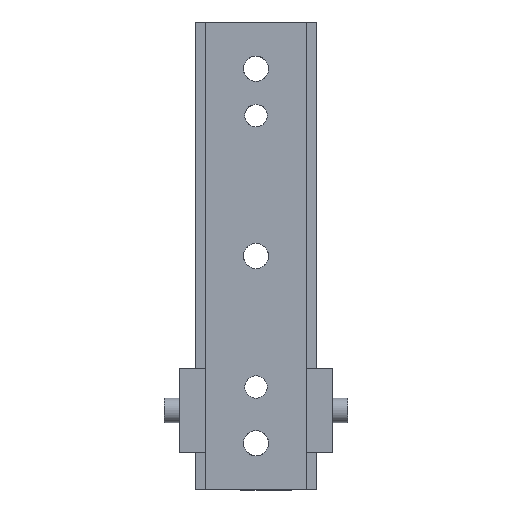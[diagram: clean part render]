
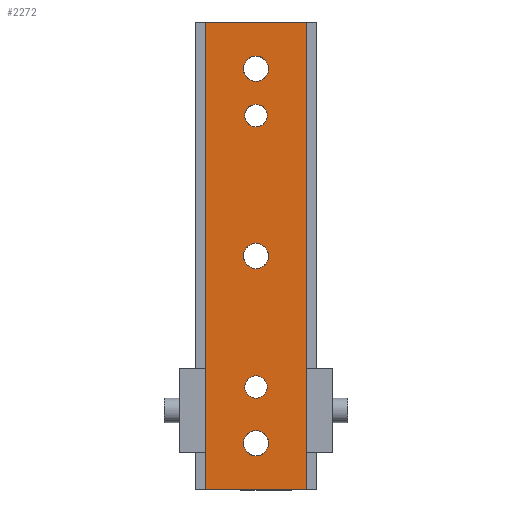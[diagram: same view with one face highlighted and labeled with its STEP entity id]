
A CAD part, front view. The second image highlights one B-rep face of the part: STEP entity #2272.
In plain terms, the highlighted planar face has unit normal (0, -1, 0).
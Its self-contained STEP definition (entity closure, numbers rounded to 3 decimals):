
#278=CARTESIAN_POINT('Vertex',(-4973.207,-575.36,0.)) ;
#281=CARTESIAN_POINT('Line Origine',(-5000.207,-575.36,0.)) ;
#285=CARTESIAN_POINT('Vertex',(-5027.207,-575.36,0.)) ;
#535=CARTESIAN_POINT('Vertex',(-5027.207,-575.36,250.)) ;
#538=CARTESIAN_POINT('Line Origine',(-5000.207,-575.36,250.)) ;
#542=CARTESIAN_POINT('Vertex',(-4973.207,-575.36,250.)) ;
#2070=CARTESIAN_POINT('Line Origine',(-4973.207,-575.36,125.)) ;
#2086=CARTESIAN_POINT('Axis2P3D Location',(-5027.207,-575.36,250.)) ;
#2091=CARTESIAN_POINT('Line Origine',(-5027.207,-575.36,125.)) ;
#2102=CARTESIAN_POINT('Axis2P3D Location',(-5000.207,-575.36,200.)) ;
#2106=CARTESIAN_POINT('Vertex',(-4994.207,-575.36,200.)) ;
#2108=CARTESIAN_POINT('Vertex',(-5000.207,-575.36,194.)) ;
#2111=CARTESIAN_POINT('Axis2P3D Location',(-5000.207,-575.36,200.)) ;
#2115=CARTESIAN_POINT('Vertex',(-5006.207,-575.36,200.)) ;
#2118=CARTESIAN_POINT('Axis2P3D Location',(-5000.207,-575.36,200.)) ;
#2122=CARTESIAN_POINT('Vertex',(-5000.207,-575.36,206.)) ;
#2125=CARTESIAN_POINT('Axis2P3D Location',(-5000.207,-575.36,200.)) ;
#2136=CARTESIAN_POINT('Axis2P3D Location',(-5000.207,-575.36,55.)) ;
#2140=CARTESIAN_POINT('Vertex',(-4994.207,-575.36,55.)) ;
#2142=CARTESIAN_POINT('Vertex',(-5000.207,-575.36,49.)) ;
#2145=CARTESIAN_POINT('Axis2P3D Location',(-5000.207,-575.36,55.)) ;
#2149=CARTESIAN_POINT('Vertex',(-5006.207,-575.36,55.)) ;
#2152=CARTESIAN_POINT('Axis2P3D Location',(-5000.207,-575.36,55.)) ;
#2156=CARTESIAN_POINT('Vertex',(-5000.207,-575.36,61.)) ;
#2159=CARTESIAN_POINT('Axis2P3D Location',(-5000.207,-575.36,55.)) ;
#2170=CARTESIAN_POINT('Axis2P3D Location',(-5000.207,-575.36,225.)) ;
#2174=CARTESIAN_POINT('Vertex',(-4993.457,-575.36,225.)) ;
#2176=CARTESIAN_POINT('Vertex',(-5000.207,-575.36,218.25)) ;
#2179=CARTESIAN_POINT('Axis2P3D Location',(-5000.207,-575.36,225.)) ;
#2183=CARTESIAN_POINT('Vertex',(-5006.957,-575.36,225.)) ;
#2186=CARTESIAN_POINT('Axis2P3D Location',(-5000.207,-575.36,225.)) ;
#2190=CARTESIAN_POINT('Vertex',(-5000.207,-575.36,231.75)) ;
#2193=CARTESIAN_POINT('Axis2P3D Location',(-5000.207,-575.36,225.)) ;
#2204=CARTESIAN_POINT('Axis2P3D Location',(-5000.207,-575.36,125.)) ;
#2208=CARTESIAN_POINT('Vertex',(-4993.457,-575.36,125.)) ;
#2210=CARTESIAN_POINT('Vertex',(-5000.207,-575.36,118.25)) ;
#2213=CARTESIAN_POINT('Axis2P3D Location',(-5000.207,-575.36,125.)) ;
#2217=CARTESIAN_POINT('Vertex',(-5006.957,-575.36,125.)) ;
#2220=CARTESIAN_POINT('Axis2P3D Location',(-5000.207,-575.36,125.)) ;
#2224=CARTESIAN_POINT('Vertex',(-5000.207,-575.36,131.75)) ;
#2227=CARTESIAN_POINT('Axis2P3D Location',(-5000.207,-575.36,125.)) ;
#2238=CARTESIAN_POINT('Axis2P3D Location',(-5000.207,-575.36,25.)) ;
#2242=CARTESIAN_POINT('Vertex',(-4993.457,-575.36,25.)) ;
#2244=CARTESIAN_POINT('Vertex',(-5000.207,-575.36,18.25)) ;
#2247=CARTESIAN_POINT('Axis2P3D Location',(-5000.207,-575.36,25.)) ;
#2251=CARTESIAN_POINT('Vertex',(-5006.957,-575.36,25.)) ;
#2254=CARTESIAN_POINT('Axis2P3D Location',(-5000.207,-575.36,25.)) ;
#2258=CARTESIAN_POINT('Vertex',(-5000.207,-575.36,31.75)) ;
#2261=CARTESIAN_POINT('Axis2P3D Location',(-5000.207,-575.36,25.)) ;
#282=DIRECTION('Vector Direction',(1.,0.,0.)) ;
#539=DIRECTION('Vector Direction',(1.,0.,0.)) ;
#2071=DIRECTION('Vector Direction',(0.,0.,-1.)) ;
#2087=DIRECTION('Axis2P3D Direction',(0.,1.,0.)) ;
#2088=DIRECTION('Axis2P3D XDirection',(0.,-0.,1.)) ;
#2092=DIRECTION('Vector Direction',(0.,0.,-1.)) ;
#2103=DIRECTION('Axis2P3D Direction',(0.,1.,0.)) ;
#2112=DIRECTION('Axis2P3D Direction',(0.,1.,0.)) ;
#2119=DIRECTION('Axis2P3D Direction',(0.,1.,0.)) ;
#2126=DIRECTION('Axis2P3D Direction',(0.,1.,0.)) ;
#2137=DIRECTION('Axis2P3D Direction',(0.,1.,0.)) ;
#2146=DIRECTION('Axis2P3D Direction',(0.,1.,0.)) ;
#2153=DIRECTION('Axis2P3D Direction',(0.,1.,0.)) ;
#2160=DIRECTION('Axis2P3D Direction',(0.,1.,0.)) ;
#2171=DIRECTION('Axis2P3D Direction',(0.,1.,0.)) ;
#2180=DIRECTION('Axis2P3D Direction',(0.,1.,0.)) ;
#2187=DIRECTION('Axis2P3D Direction',(0.,1.,0.)) ;
#2194=DIRECTION('Axis2P3D Direction',(0.,1.,0.)) ;
#2205=DIRECTION('Axis2P3D Direction',(0.,1.,0.)) ;
#2214=DIRECTION('Axis2P3D Direction',(0.,1.,0.)) ;
#2221=DIRECTION('Axis2P3D Direction',(0.,1.,0.)) ;
#2228=DIRECTION('Axis2P3D Direction',(0.,1.,0.)) ;
#2239=DIRECTION('Axis2P3D Direction',(0.,1.,0.)) ;
#2248=DIRECTION('Axis2P3D Direction',(0.,1.,0.)) ;
#2255=DIRECTION('Axis2P3D Direction',(0.,1.,0.)) ;
#2262=DIRECTION('Axis2P3D Direction',(0.,1.,0.)) ;
#2089=AXIS2_PLACEMENT_3D('Plane Axis2P3D',#2086,#2087,#2088) ;
#2104=AXIS2_PLACEMENT_3D('Circle Axis2P3D',#2102,#2103,$) ;
#2113=AXIS2_PLACEMENT_3D('Circle Axis2P3D',#2111,#2112,$) ;
#2120=AXIS2_PLACEMENT_3D('Circle Axis2P3D',#2118,#2119,$) ;
#2127=AXIS2_PLACEMENT_3D('Circle Axis2P3D',#2125,#2126,$) ;
#2138=AXIS2_PLACEMENT_3D('Circle Axis2P3D',#2136,#2137,$) ;
#2147=AXIS2_PLACEMENT_3D('Circle Axis2P3D',#2145,#2146,$) ;
#2154=AXIS2_PLACEMENT_3D('Circle Axis2P3D',#2152,#2153,$) ;
#2161=AXIS2_PLACEMENT_3D('Circle Axis2P3D',#2159,#2160,$) ;
#2172=AXIS2_PLACEMENT_3D('Circle Axis2P3D',#2170,#2171,$) ;
#2181=AXIS2_PLACEMENT_3D('Circle Axis2P3D',#2179,#2180,$) ;
#2188=AXIS2_PLACEMENT_3D('Circle Axis2P3D',#2186,#2187,$) ;
#2195=AXIS2_PLACEMENT_3D('Circle Axis2P3D',#2193,#2194,$) ;
#2206=AXIS2_PLACEMENT_3D('Circle Axis2P3D',#2204,#2205,$) ;
#2215=AXIS2_PLACEMENT_3D('Circle Axis2P3D',#2213,#2214,$) ;
#2222=AXIS2_PLACEMENT_3D('Circle Axis2P3D',#2220,#2221,$) ;
#2229=AXIS2_PLACEMENT_3D('Circle Axis2P3D',#2227,#2228,$) ;
#2240=AXIS2_PLACEMENT_3D('Circle Axis2P3D',#2238,#2239,$) ;
#2249=AXIS2_PLACEMENT_3D('Circle Axis2P3D',#2247,#2248,$) ;
#2256=AXIS2_PLACEMENT_3D('Circle Axis2P3D',#2254,#2255,$) ;
#2263=AXIS2_PLACEMENT_3D('Circle Axis2P3D',#2261,#2262,$) ;
#2097=ORIENTED_EDGE('',*,*,#287,.T.) ;
#2098=ORIENTED_EDGE('',*,*,#2074,.F.) ;
#2099=ORIENTED_EDGE('',*,*,#544,.F.) ;
#2100=ORIENTED_EDGE('',*,*,#2095,.T.) ;
#2131=ORIENTED_EDGE('',*,*,#2110,.T.) ;
#2132=ORIENTED_EDGE('',*,*,#2117,.T.) ;
#2133=ORIENTED_EDGE('',*,*,#2124,.T.) ;
#2134=ORIENTED_EDGE('',*,*,#2129,.T.) ;
#2165=ORIENTED_EDGE('',*,*,#2144,.T.) ;
#2166=ORIENTED_EDGE('',*,*,#2151,.T.) ;
#2167=ORIENTED_EDGE('',*,*,#2158,.T.) ;
#2168=ORIENTED_EDGE('',*,*,#2163,.T.) ;
#2199=ORIENTED_EDGE('',*,*,#2178,.T.) ;
#2200=ORIENTED_EDGE('',*,*,#2185,.T.) ;
#2201=ORIENTED_EDGE('',*,*,#2192,.T.) ;
#2202=ORIENTED_EDGE('',*,*,#2197,.T.) ;
#2233=ORIENTED_EDGE('',*,*,#2212,.T.) ;
#2234=ORIENTED_EDGE('',*,*,#2219,.T.) ;
#2235=ORIENTED_EDGE('',*,*,#2226,.T.) ;
#2236=ORIENTED_EDGE('',*,*,#2231,.T.) ;
#2267=ORIENTED_EDGE('',*,*,#2246,.T.) ;
#2268=ORIENTED_EDGE('',*,*,#2253,.T.) ;
#2269=ORIENTED_EDGE('',*,*,#2260,.T.) ;
#2270=ORIENTED_EDGE('',*,*,#2265,.T.) ;
#2135=FACE_BOUND('',#2130,.T.) ;
#2169=FACE_BOUND('',#2164,.T.) ;
#2203=FACE_BOUND('',#2198,.T.) ;
#2237=FACE_BOUND('',#2232,.T.) ;
#2271=FACE_BOUND('',#2266,.T.) ;
#283=VECTOR('Line Direction',#282,1.) ;
#540=VECTOR('Line Direction',#539,1.) ;
#2072=VECTOR('Line Direction',#2071,1.) ;
#2093=VECTOR('Line Direction',#2092,1.) ;
#2272=ADVANCED_FACE('A945-01-625-01-S-BC',(#2101,#2135,#2169,#2203,#2237,#2271),#2090,.F.) ;
#2105=CIRCLE('generated circle',#2104,6.) ;
#2114=CIRCLE('generated circle',#2113,6.) ;
#2121=CIRCLE('generated circle',#2120,6.) ;
#2128=CIRCLE('generated circle',#2127,6.) ;
#2139=CIRCLE('generated circle',#2138,6.) ;
#2148=CIRCLE('generated circle',#2147,6.) ;
#2155=CIRCLE('generated circle',#2154,6.) ;
#2162=CIRCLE('generated circle',#2161,6.) ;
#2173=CIRCLE('generated circle',#2172,6.75) ;
#2182=CIRCLE('generated circle',#2181,6.75) ;
#2189=CIRCLE('generated circle',#2188,6.75) ;
#2196=CIRCLE('generated circle',#2195,6.75) ;
#2207=CIRCLE('generated circle',#2206,6.75) ;
#2216=CIRCLE('generated circle',#2215,6.75) ;
#2223=CIRCLE('generated circle',#2222,6.75) ;
#2230=CIRCLE('generated circle',#2229,6.75) ;
#2241=CIRCLE('generated circle',#2240,6.75) ;
#2250=CIRCLE('generated circle',#2249,6.75) ;
#2257=CIRCLE('generated circle',#2256,6.75) ;
#2264=CIRCLE('generated circle',#2263,6.75) ;
#287=EDGE_CURVE('',#286,#279,#284,.T.) ;
#544=EDGE_CURVE('',#536,#543,#541,.T.) ;
#2074=EDGE_CURVE('',#543,#279,#2073,.T.) ;
#2095=EDGE_CURVE('',#536,#286,#2094,.T.) ;
#2110=EDGE_CURVE('',#2107,#2109,#2105,.T.) ;
#2117=EDGE_CURVE('',#2109,#2116,#2114,.T.) ;
#2124=EDGE_CURVE('',#2116,#2123,#2121,.T.) ;
#2129=EDGE_CURVE('',#2123,#2107,#2128,.T.) ;
#2144=EDGE_CURVE('',#2141,#2143,#2139,.T.) ;
#2151=EDGE_CURVE('',#2143,#2150,#2148,.T.) ;
#2158=EDGE_CURVE('',#2150,#2157,#2155,.T.) ;
#2163=EDGE_CURVE('',#2157,#2141,#2162,.T.) ;
#2178=EDGE_CURVE('',#2175,#2177,#2173,.T.) ;
#2185=EDGE_CURVE('',#2177,#2184,#2182,.T.) ;
#2192=EDGE_CURVE('',#2184,#2191,#2189,.T.) ;
#2197=EDGE_CURVE('',#2191,#2175,#2196,.T.) ;
#2212=EDGE_CURVE('',#2209,#2211,#2207,.T.) ;
#2219=EDGE_CURVE('',#2211,#2218,#2216,.T.) ;
#2226=EDGE_CURVE('',#2218,#2225,#2223,.T.) ;
#2231=EDGE_CURVE('',#2225,#2209,#2230,.T.) ;
#2246=EDGE_CURVE('',#2243,#2245,#2241,.T.) ;
#2253=EDGE_CURVE('',#2245,#2252,#2250,.T.) ;
#2260=EDGE_CURVE('',#2252,#2259,#2257,.T.) ;
#2265=EDGE_CURVE('',#2259,#2243,#2264,.T.) ;
#2096=EDGE_LOOP('',(#2097,#2098,#2099,#2100)) ;
#2130=EDGE_LOOP('',(#2131,#2132,#2133,#2134)) ;
#2164=EDGE_LOOP('',(#2165,#2166,#2167,#2168)) ;
#2198=EDGE_LOOP('',(#2199,#2200,#2201,#2202)) ;
#2232=EDGE_LOOP('',(#2233,#2234,#2235,#2236)) ;
#2266=EDGE_LOOP('',(#2267,#2268,#2269,#2270)) ;
#2101=FACE_OUTER_BOUND('',#2096,.T.) ;
#284=LINE('Line',#281,#283) ;
#541=LINE('Line',#538,#540) ;
#2073=LINE('Line',#2070,#2072) ;
#2094=LINE('Line',#2091,#2093) ;
#2090=PLANE('Plane',#2089) ;
#279=VERTEX_POINT('',#278) ;
#286=VERTEX_POINT('',#285) ;
#536=VERTEX_POINT('',#535) ;
#543=VERTEX_POINT('',#542) ;
#2107=VERTEX_POINT('',#2106) ;
#2109=VERTEX_POINT('',#2108) ;
#2116=VERTEX_POINT('',#2115) ;
#2123=VERTEX_POINT('',#2122) ;
#2141=VERTEX_POINT('',#2140) ;
#2143=VERTEX_POINT('',#2142) ;
#2150=VERTEX_POINT('',#2149) ;
#2157=VERTEX_POINT('',#2156) ;
#2175=VERTEX_POINT('',#2174) ;
#2177=VERTEX_POINT('',#2176) ;
#2184=VERTEX_POINT('',#2183) ;
#2191=VERTEX_POINT('',#2190) ;
#2209=VERTEX_POINT('',#2208) ;
#2211=VERTEX_POINT('',#2210) ;
#2218=VERTEX_POINT('',#2217) ;
#2225=VERTEX_POINT('',#2224) ;
#2243=VERTEX_POINT('',#2242) ;
#2245=VERTEX_POINT('',#2244) ;
#2252=VERTEX_POINT('',#2251) ;
#2259=VERTEX_POINT('',#2258) ;
